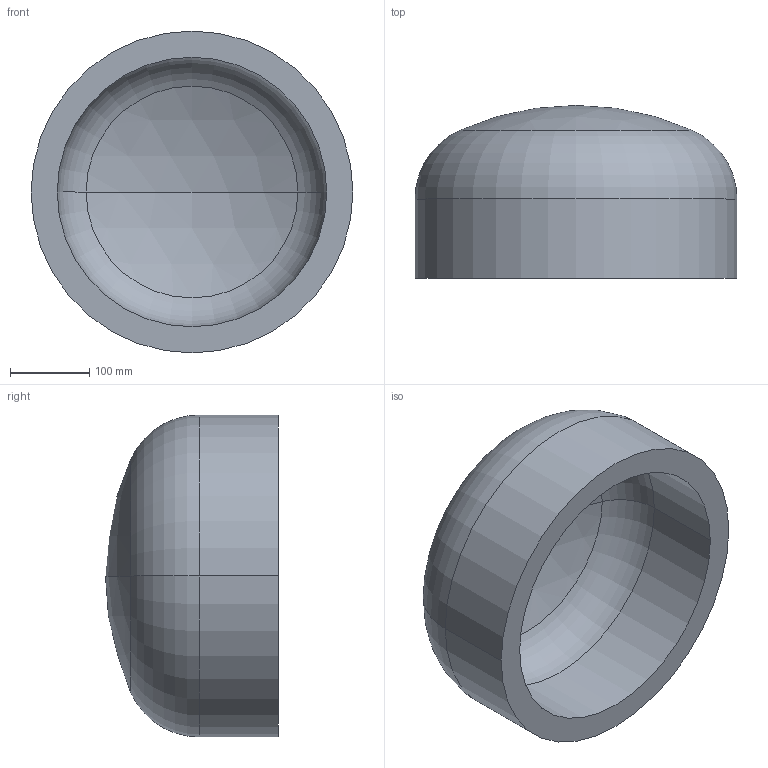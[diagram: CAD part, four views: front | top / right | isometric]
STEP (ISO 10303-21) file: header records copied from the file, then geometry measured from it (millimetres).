
FILE_DESCRIPTION (( 'STEP AP203' ), '1' );
FILE_NAME ('DIN 28013 Korbbogenform_-_Boden DIN 28013 - 406,4 x 100 - I - s=33.step', '2016-07-01T07:50:22', ( '' ), ( '' ), 'SwSTEP 2.0', 'SolidWorks 2013', '' );
FILE_SCHEMA (( 'CONFIG_CONTROL_DESIGN' ));
Length unit declared in the file: millimetre
Products named in the file (1): DIN 28013 Korbbogenform_-_Boden DIN 28013 - 406,4 x 100 - I - s=33
Bounding box: 406.4 x 218.29 x 406.4 mm (x, y, z)
Volume: 9215369.6 mm3; surface area: 599499.3 mm2
Topology: 1 solids, 1 shells, 13 faces, 24 edges, 14 vertices
Faces by surface type: torus 4, cylinder 4, sphere 4, plane 1
Entity records: 407 total; most frequent: DIRECTION 72, CARTESIAN_POINT 52, ORIENTED_EDGE 48, AXIS2_PLACEMENT_3D 34, EDGE_CURVE 24, CIRCLE 20, VERTEX_POINT 14, EDGE_LOOP 14
